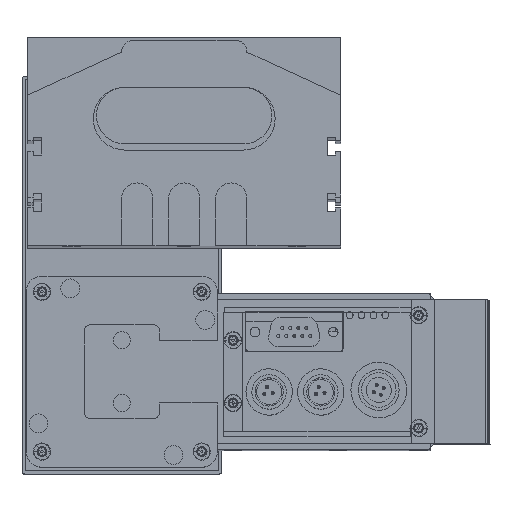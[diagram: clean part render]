
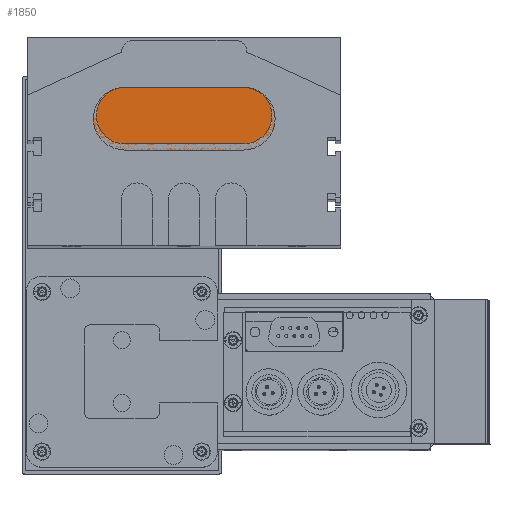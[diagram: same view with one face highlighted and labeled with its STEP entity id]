
A CAD part, top view. The second image highlights one B-rep face of the part: STEP entity #1850.
In plain terms, the highlighted planar face has unit normal (0, 0, 1).
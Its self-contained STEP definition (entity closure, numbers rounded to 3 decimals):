
#1511 = VERTEX_POINT ( 'NONE', #8175 ) ;
#1551 = VERTEX_POINT ( 'NONE', #8236 ) ;
#1574 = EDGE_CURVE ( 'NONE', #1551, #9296, #8309, .T. ) ;
#1616 = EDGE_LOOP ( 'NONE', ( #1780, #1804, #1872, #1812, #1758 ) ) ;
#1621 = EDGE_CURVE ( 'NONE', #9298, #1511, #8360, .T. ) ;
#1711 = VERTEX_POINT ( 'NONE', #8502 ) ;
#1747 = EDGE_CURVE ( 'NONE', #1511, #1711, #8606, .T. ) ;
#1758 = ORIENTED_EDGE ( 'NONE', *, *, #1811, .T. ) ;
#1780 = ORIENTED_EDGE ( 'NONE', *, *, #1574, .T. ) ;
#1804 = ORIENTED_EDGE ( 'NONE', *, *, #9148, .T. ) ;
#1811 = EDGE_CURVE ( 'NONE', #1711, #1551, #8673, .T. ) ;
#1812 = ORIENTED_EDGE ( 'NONE', *, *, #1747, .T. ) ;
#1850 = ADVANCED_FACE ( 'NONE', ( #8551 ), #7758, .T. ) ;
#1872 = ORIENTED_EDGE ( 'NONE', *, *, #1621, .T. ) ;
#2592 = CARTESIAN_POINT ( 'NONE',  ( -10., 10., 10. ) ) ;
#6975 = DIRECTION ( 'NONE',  ( 0., 0., 1. ) ) ;
#7246 = DIRECTION ( 'NONE',  ( 1., 0., 0. ) ) ;
#7758 = PLANE ( 'NONE',  #7765 ) ;
#7764 = CARTESIAN_POINT ( 'NONE',  ( 0., 10., 10. ) ) ;
#7765 = AXIS2_PLACEMENT_3D ( 'NONE', #7764, #6975, #7246 ) ;
#8175 = CARTESIAN_POINT ( 'NONE',  ( 38., 0., 10. ) ) ;
#8236 = CARTESIAN_POINT ( 'NONE',  ( 0., 20., 10. ) ) ;
#8253 = AXIS2_PLACEMENT_3D ( 'NONE', #8297, #8296, #8295 ) ;
#8295 = DIRECTION ( 'NONE',  ( 1., 0., 0. ) ) ;
#8296 = DIRECTION ( 'NONE',  ( 0., 0., 1. ) ) ;
#8297 = CARTESIAN_POINT ( 'NONE',  ( 0., 10., 10. ) ) ;
#8309 = CIRCLE ( 'NONE', #8253, 10. ) ;
#8345 = DIRECTION ( 'NONE',  ( 1., 0., 0. ) ) ;
#8346 = VECTOR ( 'NONE', #8345, 1000. ) ;
#8347 = CARTESIAN_POINT ( 'NONE',  ( 0., 0., 10. ) ) ;
#8360 = LINE ( 'NONE', #8347, #8346 ) ;
#8502 = CARTESIAN_POINT ( 'NONE',  ( 38., 20., 10. ) ) ;
#8551 = FACE_OUTER_BOUND ( 'NONE', #1616, .T. ) ;
#8606 = CIRCLE ( 'NONE', #8612, 10. ) ;
#8612 = AXIS2_PLACEMENT_3D ( 'NONE', #8661, #8660, #8659 ) ;
#8659 = DIRECTION ( 'NONE',  ( -1., 0., 0. ) ) ;
#8660 = DIRECTION ( 'NONE',  ( 0., 0., 1. ) ) ;
#8661 = CARTESIAN_POINT ( 'NONE',  ( 38., 10., 10. ) ) ;
#8673 = LINE ( 'NONE', #8752, #8745 ) ;
#8745 = VECTOR ( 'NONE', #8751, 1000. ) ;
#8751 = DIRECTION ( 'NONE',  ( -1., 0., 0. ) ) ;
#8752 = CARTESIAN_POINT ( 'NONE',  ( 0., 20., 10. ) ) ;
#9148 = EDGE_CURVE ( 'NONE', #9296, #9298, #20480, .T. ) ;
#9296 = VERTEX_POINT ( 'NONE', #2592 ) ;
#9298 = VERTEX_POINT ( 'NONE', #9542 ) ;
#9542 = CARTESIAN_POINT ( 'NONE',  ( 0., 0., 10. ) ) ;
#20475 = DIRECTION ( 'NONE',  ( 1., 0., 0. ) ) ;
#20476 = DIRECTION ( 'NONE',  ( 0., 0., 1. ) ) ;
#20477 = CARTESIAN_POINT ( 'NONE',  ( 0., 10., 10. ) ) ;
#20478 = AXIS2_PLACEMENT_3D ( 'NONE', #20477, #20476, #20475 ) ;
#20480 = CIRCLE ( 'NONE', #20478, 10. ) ;
